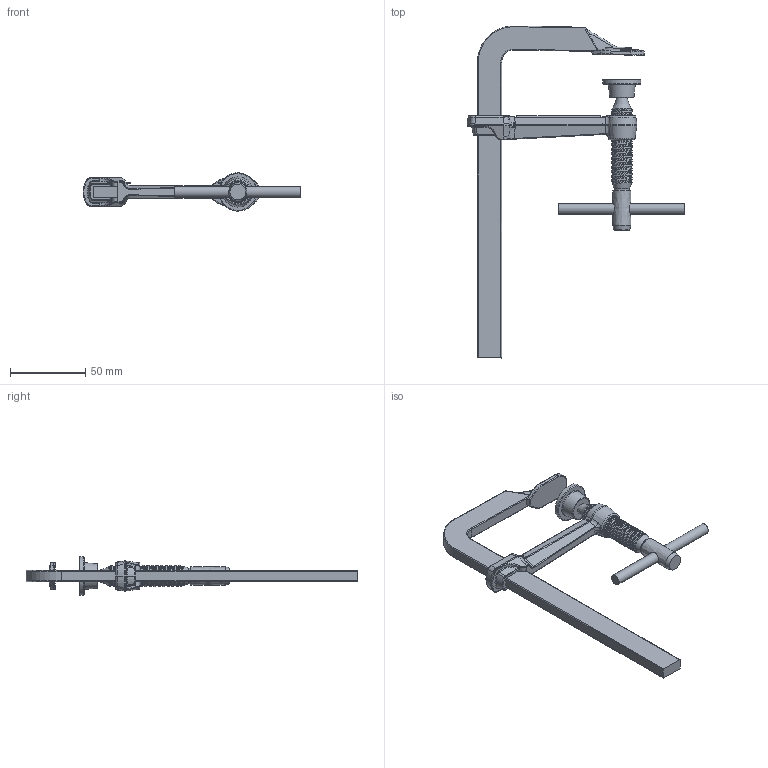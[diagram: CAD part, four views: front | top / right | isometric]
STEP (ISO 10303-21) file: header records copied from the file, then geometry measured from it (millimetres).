
FILE_DESCRIPTION( ('This file contains a STEP AP42 implementation' ,'as created by ZW3D STEP Interface translator.') ,'2;1' );
FILE_NAME( 'GS16K.stp' ,'20 7 1.114754', (''), ('ZWCAD Software Co.'), 'Version 1.0', 'ZW3D to STEP translator', '' );
FILE_SCHEMA(('AUTOMOTIVE_DESIGN'));
Length unit declared in the file: millimetre
Products named in the file (5): 0; GS16K; 3001153b_Rohlg G16Z; Schiene; 3000033_Knebelspindel_14x3
Assembly tree (3 placements, depth 2):
  0
  GS16K
    3001153b_Rohlg G16Z
    Schiene
    3000033_Knebelspindel_14x3
Bounding box: 145 x 220.88 x 25.48 mm (x, y, z)
Volume: 66546.6 mm3; surface area: 28809 mm2
Topology: 8 solids, 8 shells, 453 faces, 1157 edges, 720 vertices
Faces by surface type: bspline 453
Entity records: 141886 total; most frequent: CARTESIAN_POINT 134635, ORIENTED_EDGE 2314, EDGE_CURVE 1157, B_SPLINE_CURVE_WITH_KNOTS 887, VERTEX_POINT 720, EDGE_LOOP 465, FACE_OUTER_BOUND 453, ADVANCED_FACE 453
